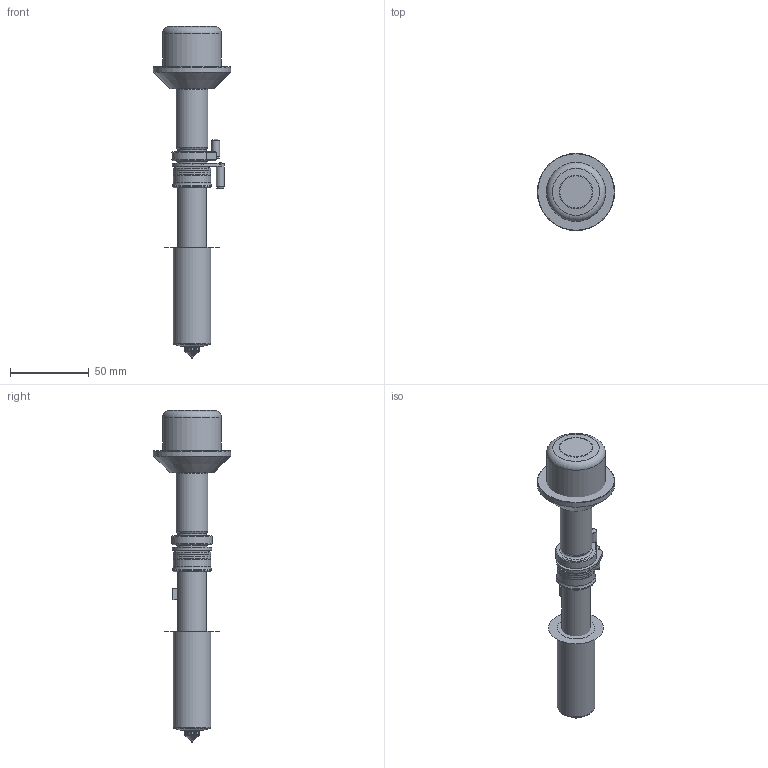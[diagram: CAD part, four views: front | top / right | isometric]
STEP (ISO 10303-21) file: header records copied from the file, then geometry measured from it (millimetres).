
FILE_DESCRIPTION(/* description */ (''),/* implementation_level */ '2;1');
FILE_NAME(/* name */ 'U500 VG.stp',/* time_stamp */ '2021-12-23T13:11:30+08:00',/* author */ (''),/* organization */ (''),/* preprocessor_version */ 'ST-DEVELOPER v16',/* originating_system */ 'SIEMENS PLM Software NX 11.0',/* authorisation */ '');
FILE_SCHEMA (('AUTOMOTIVE_DESIGN { 1 0 10303 214 3 1 1 1 }'));
Length unit declared in the file: millimetre
Products named in the file (23): 3D_EXPORT_3D_ASSY_11313149_0_id6_x_t; 3D_EXPORT_3D_ASSY_11313149_0_id11_x_t; 3D_EXPORT_3D_ASSY_11313149_0_id16_x_t; 3D_EXPORT_3D_ASSY_11313149_0_id21_x_t; 3D_EXPORT_3D_ASSY_11313149_0_id26_x_t; 3D_EXPORT_3D_ASSY_11313149_0_id31_x_t; 3D_EXPORT_3D_ASSY_11313149_0_id40_x_t; 3D_EXPORT_3D_ASSY_11313149_0_id45_x_t; 3D_EXPORT_3D_ASSY_11313149_0_id50_x_t; 3D_EXPORT_3D_ASSY_11313149_0_id55_x_t; 3D_EXPORT_3D_ASSY_11313149_0_id60_x_t; 3D_EXPORT_3D_ASSY_11313149_0_id65_x_t; 3D_EXPORT_3D_ASSY_11313149_0_id70_x_t; 3D_EXPORT_3D_ASSY_11313149_0_id75_x_t; 3D_EXPORT_3D_ASSY_11313149_0_id80_x_t; 3D_EXPORT_3D_ASSY_11313149_0_id85_x_t; 3D_EXPORT_3D_ASSY_11313149_0_id90_x_t; 3D_EXPORT_3D_ASSY_11313149_0_id97_x_t; 3D_EXPORT_3D_ASSY_11313149_0_id102_x_t; 3D_EXPORT_3D_ASSY_11313149_0_id107_x_t; 3D_EXPORT_3D_ASSY_11313149_0_id112_x_t; 3D_EXPORT_3D_ASSY_11313149_0_id117_x_t; 3D_EXPORT_3D_ASSY_11313149_0_x_t
Assembly tree (25 placements, depth 2):
  3D_EXPORT_3D_ASSY_11313149_0_x_t
    3D_EXPORT_3D_ASSY_11313149_0_id117_x_t
    3D_EXPORT_3D_ASSY_11313149_0_id112_x_t
    3D_EXPORT_3D_ASSY_11313149_0_id107_x_t
    3D_EXPORT_3D_ASSY_11313149_0_id102_x_t
    3D_EXPORT_3D_ASSY_11313149_0_id97_x_t
    3D_EXPORT_3D_ASSY_11313149_0_id90_x_t  x2
    3D_EXPORT_3D_ASSY_11313149_0_id85_x_t
    3D_EXPORT_3D_ASSY_11313149_0_id80_x_t
    3D_EXPORT_3D_ASSY_11313149_0_id75_x_t
    3D_EXPORT_3D_ASSY_11313149_0_id70_x_t
    3D_EXPORT_3D_ASSY_11313149_0_id65_x_t
    3D_EXPORT_3D_ASSY_11313149_0_id60_x_t
    3D_EXPORT_3D_ASSY_11313149_0_id55_x_t
    3D_EXPORT_3D_ASSY_11313149_0_id50_x_t
    3D_EXPORT_3D_ASSY_11313149_0_id45_x_t
    3D_EXPORT_3D_ASSY_11313149_0_id40_x_t
    3D_EXPORT_3D_ASSY_11313149_0_id31_x_t  x3
    3D_EXPORT_3D_ASSY_11313149_0_id26_x_t
    3D_EXPORT_3D_ASSY_11313149_0_id21_x_t
    3D_EXPORT_3D_ASSY_11313149_0_id16_x_t
    3D_EXPORT_3D_ASSY_11313149_0_id11_x_t
    3D_EXPORT_3D_ASSY_11313149_0_id6_x_t
Bounding box: 49 x 49 x 210.57 mm (x, y, z)
Volume: 136040.6 mm3; surface area: 48544.4 mm2
Topology: 25 solids, 25 shells, 410 faces, 954 edges, 602 vertices
Faces by surface type: plane 158, cylinder 95, torus 83, cone 70, sphere 3, bspline 1
Full cylindrical faces by diameter (mm): 1 x4, 1.7 x2, 2.95 x1, 2.985 x1, 4.027 x1, 5 x2, 6.895 x2, 7.4 x2, 7.5 x1, 8.944 x1, 9 x1, 9.7 x1, 10 x1, 10.01 x1, 11.5 x1, 11.86 x1, 12.3 x1, 12.494 x1, 12.5 x1, 12.66 x1, 12.7 x1, 12.715 x1, 12.735 x1, 12.76 x1, 13.005 x1, 13.23 x1, 13.725 x2, 16.307 x1, 16.34 x1, 17.125 x2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
Entity records: 15296 total; most frequent: CARTESIAN_POINT 3791, DIRECTION 1730, ORIENTED_EDGE 1522, EDGE_CURVE 761, AXIS2_PLACEMENT_3D 747, VERTEX_POINT 555, EDGE_LOOP 546, PRESENTATION_STYLE_ASSIGNMENT 407
